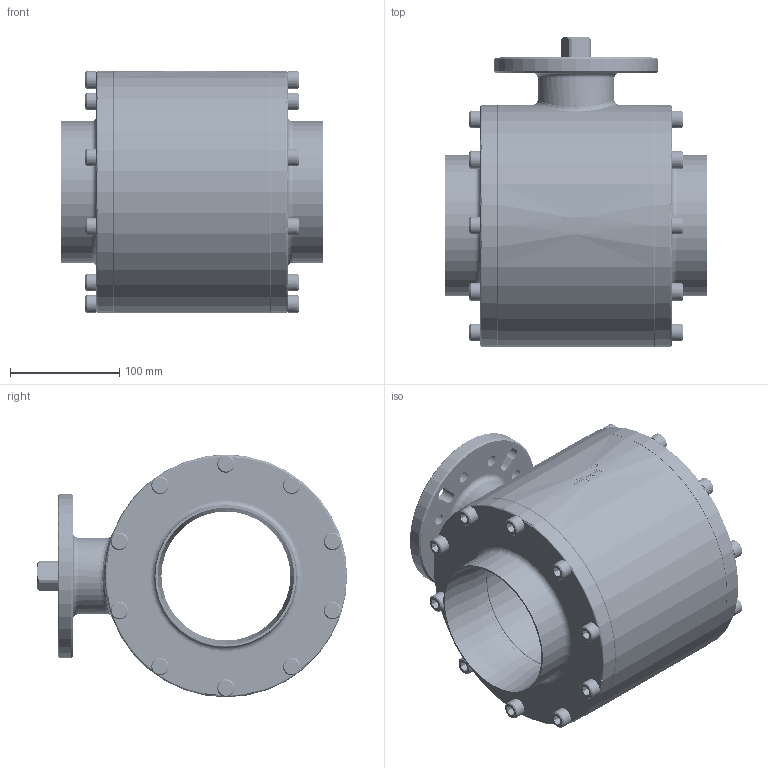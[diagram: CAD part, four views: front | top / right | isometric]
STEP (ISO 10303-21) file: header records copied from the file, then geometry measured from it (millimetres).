
FILE_DESCRIPTION((''),'2;1');
FILE_NAME('PARTE_VUOTA','2021-03-30T10:40:21',('alfio.taboni'),('CDM Tecnoconsulting'),'CREO PARAMETRIC BY PTC INC, 2020053','CREO PARAMETRIC BY PTC INC, 2020053','');
FILE_SCHEMA(('CONFIG_CONTROL_DESIGN','SHAPE_APPEARANCE_LAYERS_GROUPS'));
Length unit declared in the file: millimetre
Products named in the file (1): PARTE_VUOTA
Bounding box: 240 x 284 x 222 mm (x, y, z)
Volume: 4442326.1 mm3; surface area: 629590.2 mm2
Topology: 1 solids, 6 shells, 2315 faces, 6114 edges, 3824 vertices
Faces by surface type: cylinder 1094, plane 447, bspline 428, cone 250, extrusion 56, torus 36, sphere 4
Entity records: 213194 total; most frequent: CARTESIAN_POINT 143304, ORIENTED_EDGE 12128, DIRECTION 8455, PRESENTATION_STYLE_ASSIGNMENT 6066, STYLED_ITEM 6065, CURVE_STYLE 6064, EDGE_CURVE 6064, VERTEX_POINT 3824
